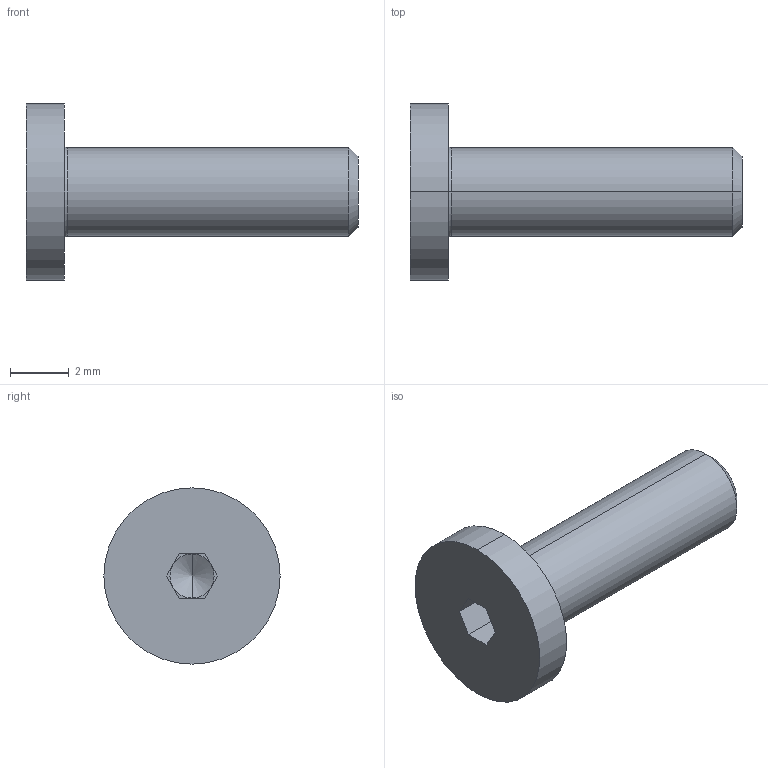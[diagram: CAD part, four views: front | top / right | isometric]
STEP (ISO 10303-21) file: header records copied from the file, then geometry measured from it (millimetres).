
FILE_DESCRIPTION (( 'STEP AP203' ), '1' );
FILE_NAME ('Bolt_M3x10_RLS.STEP', '2021-10-04T12:15:02', ( '' ), ( '' ), 'SwSTEP 2.0', 'SolidWorks 2020', '' );
FILE_SCHEMA (( 'CONFIG_CONTROL_DESIGN' ));
Length unit declared in the file: millimetre
Products named in the file (1): Bolt_M3x10_RLS
Bounding box: 11.3 x 6 x 6 mm (x, y, z)
Volume: 102.9 mm3; surface area: 183.8 mm2
Topology: 1 solids, 1 shells, 25 faces, 54 edges, 31 vertices
Faces by surface type: plane 15, cone 4, cylinder 4, torus 2
Entity records: 735 total; most frequent: DIRECTION 124, CARTESIAN_POINT 109, ORIENTED_EDGE 104, EDGE_CURVE 52, AXIS2_PLACEMENT_3D 46, LINE 32, VECTOR 32, VERTEX_POINT 31
